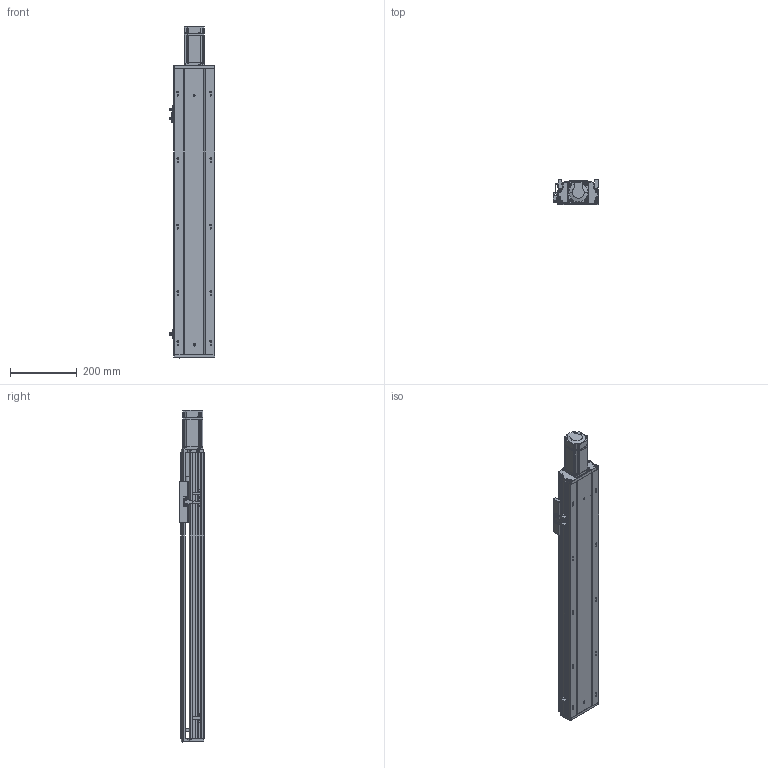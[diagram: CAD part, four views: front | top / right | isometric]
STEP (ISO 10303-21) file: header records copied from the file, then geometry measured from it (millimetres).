
FILE_DESCRIPTION (( 'STEP AP203' ), '1' );
FILE_NAME ('RY120Q-L1610-500-MK.SLDASM_0600.step', '2021-05-19T01:44:57', ( '盈信电脑' ), ( '东莞市道滘镇水果街19号' ), 'SwSTEP 2.0', 'SolidWorks 2016', '' );
FILE_SCHEMA (( 'CONFIG_CONTROL_DESIGN' ));
Length unit declared in the file: millimetre
Products named in the file (14): RY120-500-MK倰第菁釱_0600; RY120铝滑块16丝杆（FK12）; 15; 侂狟400W侜督萇儂; RY120綴裔啣; 滅袉蝶18-15; 鞠褒坶踡蹟譫BK12 ; RY120-500-MK倰第奻裔啣_0600; 覜茼ん672; RY120Q-L1610-500-MK.SLDASM_0600; RY120QGB-1.8; RY120萇儂釱FK12; 滅袉蝶18-10; RY120外置感应片(140共用）
Assembly tree (16 placements, depth 3):
  RY120Q-L1610-500-MK.SLDASM_0600
    RY120-500-MK倰第菁釱_0600
    RY120-500-MK倰第奻裔啣_0600
    侂狟400W侜督萇儂
      15
    鞠褒坶踡蹟譫BK12 
    RY120綴裔啣
    覜茼ん672  x3
    滅袉蝶18-10
    滅袉蝶18-15  x2
    RY120外置感应片(140共用）
    RY120QGB-1.8
    RY120铝滑块16丝杆（FK12）
    RY120萇儂釱FK12
Bounding box: 135.7 x 74 x 998.5 mm (x, y, z)
Volume: 2750341.6 mm3; surface area: 944626.2 mm2
Topology: 16 solids, 16 shells, 2182 faces, 5979 edges, 3814 vertices
Faces by surface type: plane 1009, cylinder 837, cone 235, bspline 101
Entity records: 71427 total; most frequent: CARTESIAN_POINT 19813, ORIENTED_EDGE 10694, DIRECTION 10115, EDGE_CURVE 5347, VERTEX_POINT 3482, AXIS2_PLACEMENT_3D 3480, LINE 3155, VECTOR 3155
